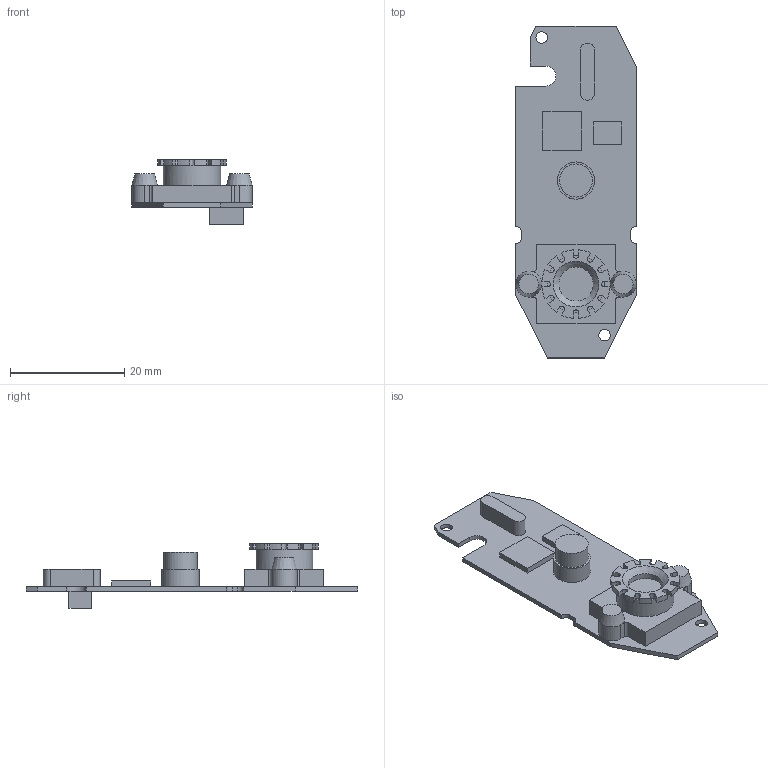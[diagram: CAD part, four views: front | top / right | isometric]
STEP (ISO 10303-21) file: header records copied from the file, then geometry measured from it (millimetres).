
FILE_DESCRIPTION(/* description */ (''),/* implementation_level */ '2;1');
FILE_NAME(/* name */ 'Webcam.step',/* time_stamp */ '2026-06-27T03:52:36+02:00',/* author */ (''),/* organization */ (''),/* preprocessor_version */ 'ST-DEVELOPER v20.1',/* originating_system */ 'Autodesk Translation Framework v15.8.0.0',/* authorisation */ '');
FILE_SCHEMA (('AUTOMOTIVE_DESIGN { 1 0 10303 214 3 1 1 }'));
Length unit declared in the file: millimetre
Products named in the file (1): 2026-06-27-03-52-36-138
Bounding box: 21 x 58 x 11.3 mm (x, y, z)
Volume: 2231.8 mm3; surface area: 3144.5 mm2
Topology: 1 solids, 1 shells, 152 faces, 392 edges, 251 vertices
Faces by surface type: plane 106, cylinder 43, cone 3
Full cylindrical faces by diameter (mm): 2 x2, 5.8 x1, 6 x1, 6.5 x1, 10 x1
Entity records: 4679 total; most frequent: DIRECTION 841, CARTESIAN_POINT 796, ORIENTED_EDGE 784, EDGE_CURVE 392, AXIS2_PLACEMENT_3D 296, VERTEX_POINT 251, LINE 249, VECTOR 249
